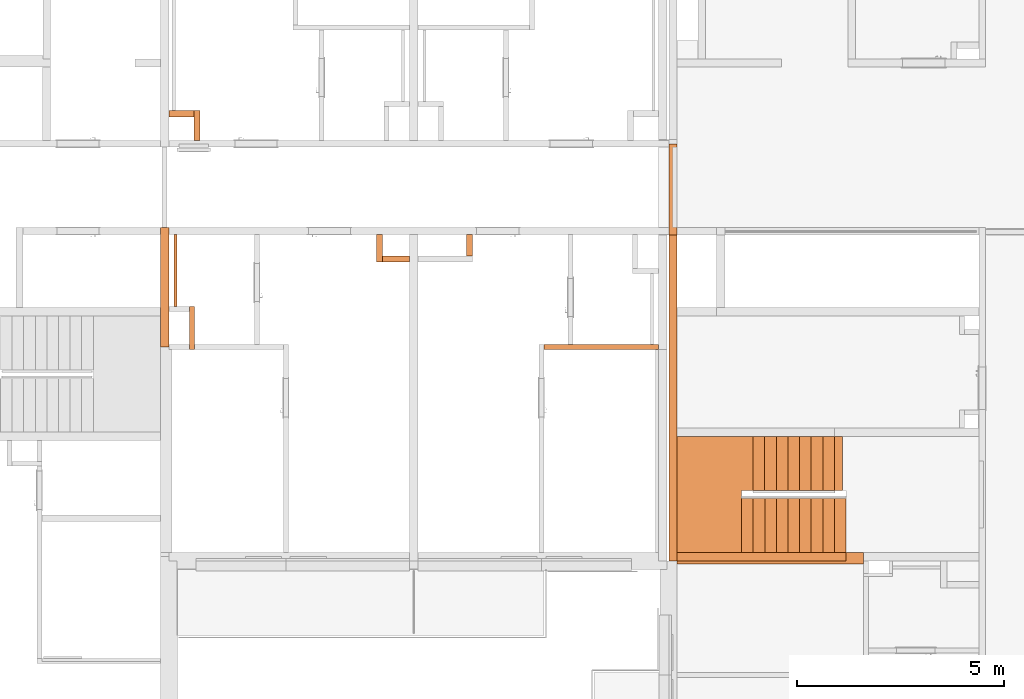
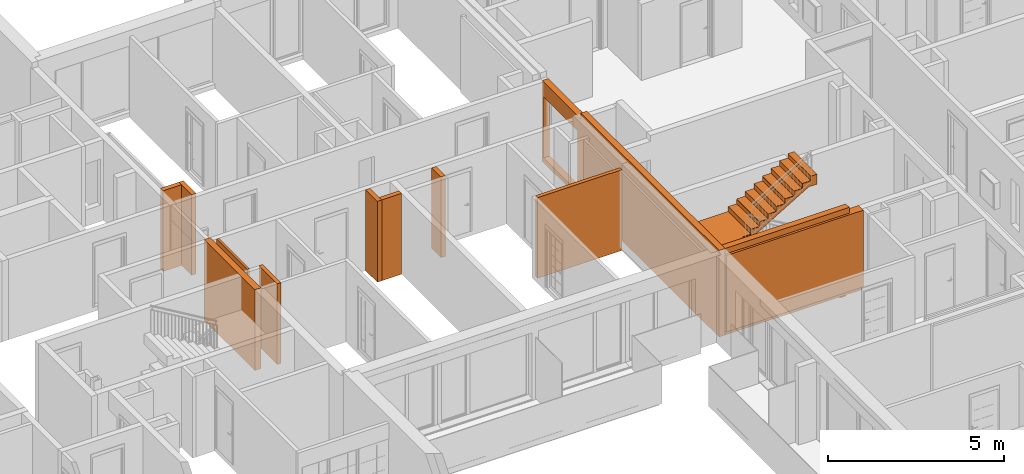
# One storey, part 56 of 64: 12 proxies, 1 opening.
"""IFC2X3 building model written with IfcOpenShell, lengths in millimetres."""

from ifc_helpers import new_model, entity, si_unit, converted_unit, derived_unit, money_unit, direction, frame, origin_with_axes, origin_2d_with_axis, place, context, subcontext, project, spatial, rectangle, extrude, faceted_brep, material, material_list, type_object, element, save


model = new_model("IFC2X3")

# Units and contexts
model_context = context("Model", 3, precision=0.01, world=origin_with_axes(), true_north=direction((0.34421633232, 0.938890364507)))
body_context = subcontext(model_context, "Body", "Model", "MODEL_VIEW")
ifc_project = project(units=[si_unit("LENGTHUNIT", "METRE", prefix="MILLI"), si_unit("AREAUNIT", "SQUARE_METRE"), si_unit("VOLUMEUNIT", "CUBIC_METRE"), converted_unit("PLANEANGLEUNIT", "DEGREE", entity("IfcPlaneAngleMeasure", 0.0174532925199), si_unit("PLANEANGLEUNIT", "RADIAN"), dimensions=[0, 0, 0, 0, 0, 0, 0]), si_unit("SOLIDANGLEUNIT", "STERADIAN"), money_unit("USD"), converted_unit("TIMEUNIT", "Year", entity("IfcTimeMeasure", 31556926.0), si_unit("TIMEUNIT", "SECOND"), dimensions=[0, 0, 1, 0, 0, 0, 0]), si_unit("MASSUNIT", "GRAM", prefix="KILO"), si_unit("THERMODYNAMICTEMPERATUREUNIT", "DEGREE_CELSIUS"), si_unit("LUMINOUSINTENSITYUNIT", "LUMEN"), si_unit("ENERGYUNIT", "JOULE", prefix="MEGA"), derived_unit("THERMALCONDUCTANCEUNIT", [(si_unit("POWERUNIT", "WATT"), 1), (si_unit("LENGTHUNIT", "METRE"), -1), (si_unit("THERMODYNAMICTEMPERATUREUNIT", "KELVIN"), -1)]), derived_unit("SPECIFICHEATCAPACITYUNIT", [(si_unit("ENERGYUNIT", "JOULE"), 1), (si_unit("MASSUNIT", "GRAM", prefix="KILO"), -1), (si_unit("THERMODYNAMICTEMPERATUREUNIT", "KELVIN"), -1)]), derived_unit("MASSDENSITYUNIT", [(si_unit("MASSUNIT", "GRAM", prefix="KILO"), 1), (si_unit("VOLUMEUNIT", "CUBIC_METRE"), -1)])], contexts=[model_context])

# Site, building, storey
site_placement = place(None, origin_with_axes())
site = spatial("IfcSite", under=ifc_project, at=site_placement, Name="USTRONIE MORSKIE", CompositionType="ELEMENT")
building_placement = place(site_placement, origin_with_axes())
building = spatial("IfcBuilding", under=site, at=building_placement, Name="Budynek", CompositionType="ELEMENT")
storey_placement = place(building_placement, frame((0.0, 0.0, 7000.0), z_axis=(0.0, 0.0, 1.0), x_axis=(1.0, 0.0, 0.0)))
storey = spatial("IfcBuildingStorey", under=building, at=storey_placement, Name="PIĘTRO 2", CompositionType="ELEMENT", Elevation=7000.0)

# Proxies
ifc_material_1 = material(Name="Bloczki silikatowe")
building_element_proxy_type_1 = type_object("IfcBuildingElementProxyType", Name="Bloczki silikatowe 120", PredefinedType="NOTDEFINED")
proxy_1_placement = place(storey_placement, frame((396917.927263, 731951.199132, -160.0), z_axis=(0.0, 0.0, 1.0), x_axis=(-3.11484010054e-05, 0.999999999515, 0.0)))
element("IfcBuildingElementProxy", 1, at=proxy_1_placement, inside=storey, type_object=building_element_proxy_type_1, material=ifc_material_1, Name="SW-04", context=body_context, shape_type="Brep", body=[
    faceted_brep([(979.997380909, 0.0, 0.0), (979.989905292, -120.0, 0.0), (-60.0037378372, -120.0, 0.0), (-60.000000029, 0.0, 0.0), (979.997380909, 0.0, 2800.0), (979.989905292, -120.0, 2800.0), (-60.0037378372, -120.0, 2800.0), (-60.000000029, 0.0, 2800.0)], [[[0, 1, 2, 3]], [[1, 0, 4, 5]], [[1, 5, 6, 2]], [[7, 3, 2, 6]], [[4, 0, 3, 7]], [[5, 4, 7, 6]]]),
])
proxy_2_placement = place(storey_placement, frame((408317.920919, 731951.199132, -160.0), z_axis=(0.0, 0.0, 1.0), x_axis=(-1.0, 0.0, 0.0)))
element("IfcBuildingElementProxy", 2, at=proxy_2_placement, inside=storey, type_object=building_element_proxy_type_1, material=ifc_material_1, Name="SW-04", context=body_context, shape_type="Brep", body=[
    faceted_brep([(2860.01935038, 59.9999999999, 0.0), (2860.01935038, -59.9999999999, 0.0), (99.9999999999, -59.9999999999, 0.0), (99.9999999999, 59.9999999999, 0.0), (2860.01935038, 59.9999999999, 2800.0), (2860.01935038, -59.9999999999, 2800.0), (99.9999999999, -59.9999999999, 2800.0), (99.9999999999, 59.9999999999, 2800.0)], [[[0, 1, 2, 3]], [[1, 0, 4, 5]], [[1, 5, 6, 2]], [[7, 3, 2, 6]], [[4, 0, 3, 7]], [[5, 4, 7, 6]]]),
])
ifc_material_2 = material(Name="Beton konstrukcyjny B25")
ifc_material_3 = material(Name="Płytki podłogowe")
ifc_material_list_1 = material_list([ifc_material_2, ifc_material_2, ifc_material_2, ifc_material_3, ifc_material_3, ifc_material_3, ifc_material_3, ifc_material_3, ifc_material_3, ifc_material_3, ifc_material_3, ifc_material_3, ifc_material_3, ifc_material_3, ifc_material_3, ifc_material_3, ifc_material_3, ifc_material_3, ifc_material_3, ifc_material_3])
building_element_proxy_type_2 = type_object("IfcBuildingElementProxyType", Name="Typ schodów", PredefinedType="NOTDEFINED")
proxy_3_placement = place(storey_placement, frame((412739.660049, 727001.198905, 0.0), z_axis=(0.0, 0.0, 1.0), x_axis=(-1.0, 0.0, 0.0)))
element("IfcBuildingElementProxy", 3, at=proxy_3_placement, inside=storey, type_object=building_element_proxy_type_2, material=ifc_material_list_1, Name="SCH2", context=body_context, shape_type="Brep", body=[
    faceted_brep([(2520.00002021, -1299.99999404, 1485.0), (2520.00002021, 0.0, 1485.0), (2240.0, 0.0, 1485.0), (2240.0, -1300.0, 1485.0), (2520.00002021, -1299.99999404, 1491.66666667), (2520.00002021, 0.0, 1491.66666667), (2520.00002021, 0.0, 1345.35030449), (2426.66666667, 0.0, 1289.7947369), (2333.33333333, 0.0, 1234.23918135), (2240.0, 0.0, 1178.68362579), (2146.66666667, 0.0, 1123.12807024), (2053.33333333, 0.0, 1067.57251468), (1960.0, 0.0, 1012.01695913), (1866.66666667, 0.0, 956.46140357), (1773.33333333, 0.0, 900.905848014), (1680.0, 0.0, 845.350292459), (1586.66666667, 0.0, 789.794736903), (1493.33333333, 0.0, 734.239181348), (1400.0, 0.0, 678.683625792), (1306.66666667, 0.0, 623.128070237), (1213.33333333, 0.0, 567.572514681), (1120.0, 0.0, 512.016959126), (1026.66666667, 0.0, 456.46140357), (933.333333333, 0.0, 400.905848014), (840.0, 0.0, 345.350292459), (746.666666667, 0.0, 289.794736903), (653.333333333, 0.0, 234.239181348), (560.0, 0.0, 178.683625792), (466.666666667, 0.0, 123.128070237), (373.333333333, 0.0, 67.5725146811), (280.0, 0.0, 12.0169591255), (200.0, 0.0, -35.6020884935), (200.0, 0.0, -360.0), (0.0, 0.0, -360.0), (0.0, 0.0, -154.649707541), (0.0, 0.0, 151.666666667), (280.0, 0.0, 151.666666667), (280.0, 0.0, 318.333333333), (560.0, 0.0, 318.333333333), (560.0, 0.0, 485.0), (840.0, 0.0, 485.0), (840.0, 0.0, 651.666666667), (1120.0, 0.0, 651.666666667), (1120.0, 0.0, 818.333333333), (1400.0, 0.0, 818.333333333), (1400.0, 0.0, 985.0), (1680.0, 0.0, 985.0), (1680.0, 0.0, 1151.66666667), (1960.0, 0.0, 1151.66666667), (1960.0, 0.0, 1318.33333333), (2240.0, 0.0, 1318.33333333), (2765.81150867, 0.0, 1491.66666667), (2240.0, -1300.0, 1318.33333333), (1960.0, -1300.0, 1318.33333333), (1960.0, -1300.0, 1151.66666667), (1680.0, -1300.0, 1151.66666667), (1680.0, -1300.0, 985.0), (1400.0, -1300.0, 985.0), (1400.0, -1300.0, 818.333333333), (1120.0, -1300.0, 818.333333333), (1120.0, -1300.0, 651.666666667), (840.0, -1300.0, 651.666666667), (840.0, -1300.0, 485.0), (560.0, -1300.0, 485.0), (560.0, -1300.0, 318.333333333), (280.0, -1300.0, 318.333333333), (280.0, -1300.0, 151.666666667), (0.0, -1300.0, 151.666666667), (0.0, -1300.0, -154.649707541), (0.0, -1300.0, -360.0), (200.0, -1300.0, -360.0), (200.0, -1300.0, -35.6020884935), (280.0, -1300.0, 12.0169591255), (373.333333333, -1300.0, 67.5725146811), (466.666666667, -1300.0, 123.128070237), (560.0, -1300.0, 178.683625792), (653.333333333, -1300.0, 234.239181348), (746.666666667, -1300.0, 289.794736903), (840.0, -1300.0, 345.350292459), (933.333333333, -1300.0, 400.905848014), (1026.66666667, -1300.0, 456.46140357), (1120.0, -1300.0, 512.016959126), (1213.33333333, -1300.0, 567.572514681), (1306.66666667, -1300.0, 623.128070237), (1400.0, -1300.0, 678.683625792), (1493.33333333, -1300.0, 734.239181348), (1586.66666667, -1300.0, 789.794736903), (1680.0, -1300.0, 845.350292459), (1773.33333333, -1300.0, 900.905848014), (1866.66666667, -1300.0, 956.46140357), (1960.0, -1300.0, 1012.01695913), (2053.33333333, -1300.0, 1067.57251468), (2146.66666667, -1300.0, 1123.12807024), (2240.0, -1300.0, 1178.68362579), (2333.33333333, -1300.0, 1234.23918135), (2426.66666667, -1300.0, 1289.7947369), (2520.00002021, -1299.99999404, 1345.35030449), (2765.81150867, -1299.99999404, 1491.66666667)], [[[0, 1, 2, 3]], [[1, 0, 4, 5]], [[6, 7, 8, 9, 10, 11, 12, 13, 14, 15, 16, 17, 18, 19, 20, 21, 22, 23, 24, 25, 26, 27, 28, 29, 30, 31, 32, 33, 34, 35, 36, 37, 38, 39, 40, 41, 42, 43, 44, 45, 46, 47, 48, 49, 50, 2, 1, 5, 51]], [[52, 3, 2, 50]], [[0, 3, 52, 53, 54, 55, 56, 57, 58, 59, 60, 61, 62, 63, 64, 65, 66, 67, 68, 69, 70, 71, 72, 73, 74, 75, 76, 77, 78, 79, 80, 81, 82, 83, 84, 85, 86, 87, 88, 89, 90, 91, 92, 93, 94, 95, 96, 97, 4]], [[51, 5, 4, 97]], [[96, 95, 7, 6, 51, 97]], [[95, 94, 8, 7]], [[94, 93, 9, 8]], [[93, 92, 10, 9]], [[92, 91, 11, 10]], [[91, 90, 12, 11]], [[90, 89, 13, 12]], [[89, 88, 14, 13]], [[88, 87, 15, 14]], [[87, 86, 16, 15]], [[86, 85, 17, 16]], [[85, 84, 18, 17]], [[84, 83, 19, 18]], [[83, 82, 20, 19]], [[82, 81, 21, 20]], [[81, 80, 22, 21]], [[80, 79, 23, 22]], [[79, 78, 24, 23]], [[78, 77, 25, 24]], [[77, 76, 26, 25]], [[76, 75, 27, 26]], [[75, 74, 28, 27]], [[74, 73, 29, 28]], [[73, 72, 30, 29]], [[72, 71, 31, 30]], [[32, 31, 71, 70]], [[32, 70, 69, 33]], [[69, 68, 34, 33]], [[35, 34, 68, 67]], [[36, 35, 67, 66]], [[66, 65, 37, 36]], [[38, 37, 65, 64]], [[64, 63, 39, 38]], [[40, 39, 63, 62]], [[62, 61, 41, 40]], [[42, 41, 61, 60]], [[60, 59, 43, 42]], [[44, 43, 59, 58]], [[58, 57, 45, 44]], [[46, 45, 57, 56]], [[56, 55, 47, 46]], [[48, 47, 55, 54]], [[54, 53, 49, 48]], [[50, 49, 53, 52]]]),
    faceted_brep([(2275.92762177, -1500.00000596, 1491.66666667), (2275.92762177, -1500.00000596, 1651.66666667), (2521.73913043, -1500.00000596, 1651.66666667), (2521.73913043, -1500.00000596, 1491.66666667), (2275.92762177, -2800.0, 1651.66666667), (2275.92762177, -2800.0, 1491.66666667), (4071.73911851, -2800.0, 1651.66666667), (4071.73911851, 0.0, 1651.66666667), (2520.00002021, 0.0, 1651.66666667), (2520.00002021, -1299.99999404, 1651.66666667), (2521.73913043, -1299.99999404, 1651.66666667), (2521.73913043, -1299.99999404, 1491.66666667), (2520.00002021, -1299.99999404, 1491.66666667), (2520.00002021, 0.0, 1491.66666667), (4071.73911851, 0.0, 1491.66666667), (4071.73911851, -2800.0, 1491.66666667)], [[[0, 1, 2, 3]], [[4, 1, 0, 5]], [[1, 4, 6, 7, 8, 9, 10, 2]], [[10, 11, 3, 2]], [[5, 0, 3, 11, 12, 13, 14, 15]], [[4, 5, 15, 6]], [[6, 15, 14, 7]], [[7, 14, 13, 8]], [[8, 13, 12, 9]], [[9, 12, 11, 10]]]),
    faceted_brep([(375.072463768, -2800.0, 2623.12807024), (346.727621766, -2800.0, 2640.0), (346.727621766, -1500.0, 2640.0), (375.072463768, -1500.0, 2623.12807024), (81.7391304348, -2800.0, 2640.0), (468.405797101, -2800.0, 2567.57251468), (561.739130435, -2800.0, 2512.01695913), (655.072463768, -2800.0, 2456.46140357), (748.405797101, -2800.0, 2400.90584801), (841.739130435, -2800.0, 2345.35029246), (935.072463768, -2800.0, 2289.7947369), (1028.4057971, -2800.0, 2234.23918135), (1121.73913043, -2800.0, 2178.68362579), (1215.07246377, -2800.0, 2123.12807024), (1308.4057971, -2800.0, 2067.57251468), (1401.73913043, -2800.0, 2012.01695913), (1495.07246377, -2800.0, 1956.46140357), (1588.4057971, -2800.0, 1900.90584801), (1681.73913043, -2800.0, 1845.35029246), (1775.07246377, -2800.0, 1789.7947369), (1868.4057971, -2800.0, 1734.23918135), (1961.73913043, -2800.0, 1678.68362579), (2055.07246377, -2800.0, 1623.12807024), (2148.4057971, -2800.0, 1567.57251468), (2241.73913043, -2800.0, 1512.01695913), (2275.92762177, -2800.0, 1491.66666667), (2275.92762177, -2800.0, 1651.66666667), (2241.73913043, -2800.0, 1651.66666667), (2241.73913043, -2800.0, 1818.33333333), (1961.73913043, -2800.0, 1818.33333333), (1961.73913043, -2800.0, 1985.0), (1681.73913043, -2800.0, 1985.0), (1681.73913043, -2800.0, 2151.66666667), (1401.73913043, -2800.0, 2151.66666667), (1401.73913043, -2800.0, 2318.33333333), (1121.73913043, -2800.0, 2318.33333333), (1121.73913043, -2800.0, 2485.0), (841.739130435, -2800.0, 2485.0), (841.739130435, -2800.0, 2651.66666667), (561.739130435, -2800.0, 2651.66666667), (561.739130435, -2800.0, 2818.33333333), (281.739130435, -2800.0, 2818.33333333), (281.739130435, -2800.0, 2985.0), (81.7391304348, -2800.0, 2985.0), (81.7391304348, -1500.0, 2640.0), (81.7391304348, -1500.0, 2985.0), (281.739130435, -1500.0, 2985.0), (281.739130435, -1500.0, 2818.33333333), (561.739130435, -1500.0, 2818.33333333), (561.739130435, -1500.0, 2651.66666667), (841.739130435, -1500.0, 2651.66666667), (841.739130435, -1500.0, 2485.0), (1121.73913043, -1500.0, 2485.0), (1121.73913043, -1500.0, 2318.33333333), (1401.73913043, -1500.0, 2318.33333333), (1401.73913043, -1500.0, 2151.66666667), (1681.73913043, -1500.0, 2151.66666667), (1681.73913043, -1500.0, 1985.0), (1961.73913043, -1500.0, 1985.0), (1961.73913043, -1500.0, 1818.33333333), (2241.73913043, -1500.0, 1818.33333333), (2241.73913043, -1500.00000596, 1651.66666667), (2275.92762177, -1500.00000596, 1651.66666667), (2275.92762177, -1500.00000596, 1491.66666667), (2241.73913043, -1500.00000596, 1512.01695913), (2148.4057971, -1500.0, 1567.57251468), (2055.07246377, -1500.0, 1623.12807024), (1961.73913043, -1500.0, 1678.68362579), (1868.4057971, -1500.0, 1734.23918135), (1775.07246377, -1500.0, 1789.7947369), (1681.73913043, -1500.0, 1845.35029246), (1588.4057971, -1500.0, 1900.90584801), (1495.07246377, -1500.0, 1956.46140357), (1401.73913043, -1500.0, 2012.01695913), (1308.4057971, -1500.0, 2067.57251468), (1215.07246377, -1500.0, 2123.12807024), (1121.73913043, -1500.0, 2178.68362579), (1028.4057971, -1500.0, 2234.23918135), (935.072463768, -1500.0, 2289.7947369), (841.739130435, -1500.0, 2345.35029246), (748.405797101, -1500.0, 2400.90584801), (655.072463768, -1500.0, 2456.46140357), (561.739130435, -1500.0, 2512.01695913), (468.405797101, -1500.0, 2567.57251468)], [[[0, 1, 2, 3]], [[4, 1, 0, 5, 6, 7, 8, 9, 10, 11, 12, 13, 14, 15, 16, 17, 18, 19, 20, 21, 22, 23, 24, 25, 26, 27, 28, 29, 30, 31, 32, 33, 34, 35, 36, 37, 38, 39, 40, 41, 42, 43]], [[44, 2, 1, 4]], [[3, 2, 44, 45, 46, 47, 48, 49, 50, 51, 52, 53, 54, 55, 56, 57, 58, 59, 60, 61, 62, 63, 64, 65, 66, 67, 68, 69, 70, 71, 72, 73, 74, 75, 76, 77, 78, 79, 80, 81, 82, 83]], [[83, 5, 0, 3]], [[82, 6, 5, 83]], [[81, 7, 6, 82]], [[80, 8, 7, 81]], [[79, 9, 8, 80]], [[78, 10, 9, 79]], [[77, 11, 10, 78]], [[76, 12, 11, 77]], [[75, 13, 12, 76]], [[74, 14, 13, 75]], [[73, 15, 14, 74]], [[72, 16, 15, 73]], [[71, 17, 16, 72]], [[70, 18, 17, 71]], [[69, 19, 18, 70]], [[68, 20, 19, 69]], [[67, 21, 20, 68]], [[66, 22, 21, 67]], [[65, 23, 22, 66]], [[23, 65, 64, 24]], [[63, 25, 24, 64]], [[26, 25, 63, 62]], [[26, 62, 61, 27]], [[60, 28, 27, 61]], [[59, 29, 28, 60]], [[29, 59, 58, 30]], [[57, 31, 30, 58]], [[31, 57, 56, 32]], [[55, 33, 32, 56]], [[33, 55, 54, 34]], [[53, 35, 34, 54]], [[35, 53, 52, 36]], [[51, 37, 36, 52]], [[37, 51, 50, 38]], [[49, 39, 38, 50]], [[39, 49, 48, 40]], [[48, 47, 41, 40]], [[42, 41, 47, 46]], [[42, 46, 45, 43]], [[4, 43, 45, 44]]]),
    faceted_brep([(0.0, 0.0, 156.666666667), (0.0, -1300.0, 156.666666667), (0.0, -1300.0, 166.666666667), (0.0, 0.0, 166.666666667), (280.0, 0.0, 156.666666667), (280.0, -1300.0, 156.666666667), (280.0, -1300.0, 166.666666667), (280.0, 0.0, 166.666666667)], [[[0, 1, 2, 3]], [[0, 4, 5, 1]], [[1, 5, 6, 2]], [[3, 2, 6, 7]], [[4, 0, 3, 7]], [[5, 4, 7, 6]]]),
    faceted_brep([(280.0, 0.0, 323.333333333), (280.0, -1300.0, 323.333333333), (280.0, -1300.0, 333.333333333), (280.0, 0.0, 333.333333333), (560.0, 0.0, 323.333333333), (560.0, -1300.0, 323.333333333), (560.0, -1300.0, 333.333333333), (560.0, 0.0, 333.333333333)], [[[0, 1, 2, 3]], [[0, 4, 5, 1]], [[1, 5, 6, 2]], [[3, 2, 6, 7]], [[4, 0, 3, 7]], [[5, 4, 7, 6]]]),
    faceted_brep([(560.0, 0.0, 490.0), (560.0, -1300.0, 490.0), (560.0, -1300.0, 500.0), (560.0, 0.0, 500.0), (840.0, 0.0, 490.0), (840.0, -1300.0, 490.0), (840.0, -1300.0, 500.0), (840.0, 0.0, 500.0)], [[[0, 1, 2, 3]], [[0, 4, 5, 1]], [[1, 5, 6, 2]], [[3, 2, 6, 7]], [[4, 0, 3, 7]], [[5, 4, 7, 6]]]),
    faceted_brep([(840.0, 0.0, 656.666666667), (840.0, -1300.0, 656.666666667), (840.0, -1300.0, 666.666666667), (840.0, 0.0, 666.666666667), (1120.0, 0.0, 656.666666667), (1120.0, -1300.0, 656.666666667), (1120.0, -1300.0, 666.666666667), (1120.0, 0.0, 666.666666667)], [[[0, 1, 2, 3]], [[0, 4, 5, 1]], [[1, 5, 6, 2]], [[3, 2, 6, 7]], [[4, 0, 3, 7]], [[5, 4, 7, 6]]]),
    faceted_brep([(1120.0, 0.0, 823.333333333), (1120.0, -1300.0, 823.333333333), (1120.0, -1300.0, 833.333333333), (1120.0, 0.0, 833.333333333), (1400.0, 0.0, 823.333333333), (1400.0, -1300.0, 823.333333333), (1400.0, -1300.0, 833.333333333), (1400.0, 0.0, 833.333333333)], [[[0, 1, 2, 3]], [[0, 4, 5, 1]], [[1, 5, 6, 2]], [[3, 2, 6, 7]], [[4, 0, 3, 7]], [[5, 4, 7, 6]]]),
    faceted_brep([(1400.0, 0.0, 990.0), (1400.0, -1300.0, 990.0), (1400.0, -1300.0, 1000.0), (1400.0, 0.0, 1000.0), (1680.0, 0.0, 990.0), (1680.0, -1300.0, 990.0), (1680.0, -1300.0, 1000.0), (1680.0, 0.0, 1000.0)], [[[0, 1, 2, 3]], [[0, 4, 5, 1]], [[1, 5, 6, 2]], [[3, 2, 6, 7]], [[4, 0, 3, 7]], [[5, 4, 7, 6]]]),
    faceted_brep([(1680.0, 0.0, 1156.66666667), (1680.0, -1300.0, 1156.66666667), (1680.0, -1300.0, 1166.66666667), (1680.0, 0.0, 1166.66666667), (1960.0, 0.0, 1156.66666667), (1960.0, -1300.0, 1156.66666667), (1960.0, -1300.0, 1166.66666667), (1960.0, 0.0, 1166.66666667)], [[[0, 1, 2, 3]], [[0, 4, 5, 1]], [[1, 5, 6, 2]], [[3, 2, 6, 7]], [[4, 0, 3, 7]], [[5, 4, 7, 6]]]),
    faceted_brep([(1960.0, 0.0, 1323.33333333), (1960.0, -1300.0, 1323.33333333), (1960.0, -1300.0, 1333.33333333), (1960.0, 0.0, 1333.33333333), (2240.0, 0.0, 1323.33333333), (2240.0, -1300.0, 1323.33333333), (2240.0, -1300.0, 1333.33333333), (2240.0, 0.0, 1333.33333333)], [[[0, 1, 2, 3]], [[0, 4, 5, 1]], [[1, 5, 6, 2]], [[3, 2, 6, 7]], [[4, 0, 3, 7]], [[5, 4, 7, 6]]]),
    faceted_brep([(2240.0, 0.0, 1490.0), (2240.0, -1300.0, 1490.0), (2240.0, -1300.0, 1500.0), (2240.0, 0.0, 1500.0), (2520.0, 0.0, 1490.0), (2520.0, -1300.0, 1490.0), (2520.0, -1300.0, 1500.0), (2520.0, 0.0, 1500.0)], [[[0, 1, 2, 3]], [[0, 4, 5, 1]], [[1, 5, 6, 2]], [[3, 2, 6, 7]], [[4, 0, 3, 7]], [[5, 4, 7, 6]]]),
    faceted_brep([(2521.73913043, -1500.00000596, 1656.66666667), (2241.73913043, -1500.00000596, 1656.66666667), (2241.73913043, -1500.00000596, 1666.66666667), (2521.73913043, -1500.00000596, 1666.66666667), (2521.73913043, -1299.99999404, 1656.66666667), (2520.00002021, -1299.99999404, 1656.66666667), (2520.00002021, 0.0, 1656.66666667), (2521.73913043, 0.0, 1656.66666667), (4071.73911851, 0.0, 1656.66666667), (4071.73911851, -2800.0, 1656.66666667), (2521.73913043, -2800.0, 1656.66666667), (2241.73913043, -2800.0, 1656.66666667), (2241.73913043, -2800.0, 1666.66666667), (2521.73913043, -2800.0, 1666.66666667), (4071.73911851, -2800.0, 1666.66666667), (4071.73911851, 0.0, 1666.66666667), (2521.73913043, 0.0, 1666.66666667), (2520.00002021, 0.0, 1666.66666667), (2520.00002021, -1299.99999404, 1666.66666667), (2521.73913043, -1299.99999404, 1666.66666667)], [[[0, 1, 2, 3]], [[0, 4, 5, 6, 7, 8, 9, 10, 11, 1]], [[1, 11, 12, 2]], [[3, 2, 12, 13, 14, 15, 16, 17, 18, 19]], [[4, 0, 3, 19]], [[5, 4, 19, 18]], [[6, 5, 18, 17]], [[7, 6, 17, 16]], [[8, 7, 16, 15]], [[9, 8, 15, 14]], [[10, 9, 14, 13]], [[11, 10, 13, 12]]]),
    faceted_brep([(2241.73913043, -2800.0, 1823.33333333), (2241.73913043, -1500.0, 1823.33333333), (2241.73913043, -1500.0, 1833.33333333), (2241.73913043, -2800.0, 1833.33333333), (1961.73913043, -2800.0, 1823.33333333), (1961.73913043, -1500.0, 1823.33333333), (1961.73913043, -1500.0, 1833.33333333), (1961.73913043, -2800.0, 1833.33333333)], [[[0, 1, 2, 3]], [[0, 4, 5, 1]], [[1, 5, 6, 2]], [[3, 2, 6, 7]], [[4, 0, 3, 7]], [[5, 4, 7, 6]]]),
    faceted_brep([(1961.73913043, -2800.0, 1990.0), (1961.73913043, -1500.0, 1990.0), (1961.73913043, -1500.0, 2000.0), (1961.73913043, -2800.0, 2000.0), (1681.73913043, -2800.0, 1990.0), (1681.73913043, -1500.0, 1990.0), (1681.73913043, -1500.0, 2000.0), (1681.73913043, -2800.0, 2000.0)], [[[0, 1, 2, 3]], [[0, 4, 5, 1]], [[1, 5, 6, 2]], [[3, 2, 6, 7]], [[4, 0, 3, 7]], [[5, 4, 7, 6]]]),
    faceted_brep([(1681.73913043, -2800.0, 2156.66666667), (1681.73913043, -1500.0, 2156.66666667), (1681.73913043, -1500.0, 2166.66666667), (1681.73913043, -2800.0, 2166.66666667), (1401.73913043, -2800.0, 2156.66666667), (1401.73913043, -1500.0, 2156.66666667), (1401.73913043, -1500.0, 2166.66666667), (1401.73913043, -2800.0, 2166.66666667)], [[[0, 1, 2, 3]], [[0, 4, 5, 1]], [[1, 5, 6, 2]], [[3, 2, 6, 7]], [[4, 0, 3, 7]], [[5, 4, 7, 6]]]),
    faceted_brep([(1401.73913043, -2800.0, 2323.33333333), (1401.73913043, -1500.0, 2323.33333333), (1401.73913043, -1500.0, 2333.33333333), (1401.73913043, -2800.0, 2333.33333333), (1121.73913043, -2800.0, 2323.33333333), (1121.73913043, -1500.0, 2323.33333333), (1121.73913043, -1500.0, 2333.33333333), (1121.73913043, -2800.0, 2333.33333333)], [[[0, 1, 2, 3]], [[0, 4, 5, 1]], [[1, 5, 6, 2]], [[3, 2, 6, 7]], [[4, 0, 3, 7]], [[5, 4, 7, 6]]]),
    faceted_brep([(1121.73913043, -2800.0, 2490.0), (1121.73913043, -1500.0, 2490.0), (1121.73913043, -1500.0, 2500.0), (1121.73913043, -2800.0, 2500.0), (841.739130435, -2800.0, 2490.0), (841.739130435, -1500.0, 2490.0), (841.739130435, -1500.0, 2500.0), (841.739130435, -2800.0, 2500.0)], [[[0, 1, 2, 3]], [[0, 4, 5, 1]], [[1, 5, 6, 2]], [[3, 2, 6, 7]], [[4, 0, 3, 7]], [[5, 4, 7, 6]]]),
    faceted_brep([(841.739130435, -2800.0, 2656.66666667), (841.739130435, -1500.0, 2656.66666667), (841.739130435, -1500.0, 2666.66666667), (841.739130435, -2800.0, 2666.66666667), (561.739130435, -2800.0, 2656.66666667), (561.739130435, -1500.0, 2656.66666667), (561.739130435, -1500.0, 2666.66666667), (561.739130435, -2800.0, 2666.66666667)], [[[0, 1, 2, 3]], [[0, 4, 5, 1]], [[1, 5, 6, 2]], [[3, 2, 6, 7]], [[4, 0, 3, 7]], [[5, 4, 7, 6]]]),
    faceted_brep([(561.739130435, -2800.0, 2823.33333333), (561.739130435, -1500.0, 2823.33333333), (561.739130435, -1500.0, 2833.33333333), (561.739130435, -2800.0, 2833.33333333), (281.739130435, -2800.0, 2823.33333333), (281.739130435, -1500.0, 2823.33333333), (281.739130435, -1500.0, 2833.33333333), (281.739130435, -2800.0, 2833.33333333)], [[[0, 1, 2, 3]], [[0, 4, 5, 1]], [[1, 5, 6, 2]], [[3, 2, 6, 7]], [[4, 0, 3, 7]], [[5, 4, 7, 6]]]),
])
ifc_material_4 = material(Name="-Pustka powietrzna")
ifc_material_5 = material(Name="Płyta GK")
ifc_material_list_2 = material_list([ifc_material_4, ifc_material_5, ifc_material_5])
building_element_proxy_type_3 = type_object("IfcBuildingElementProxyType", Name="330-SD GK 2-warstwy 75", PredefinedType="NOTDEFINED")
proxy_4_placement = place(storey_placement, frame((396562.908566, 732811.206636, -160.0), z_axis=(0.0, 0.0, 1.0), x_axis=(0.0, 1.0, 0.0)))
element("IfcBuildingElementProxy", 4, at=proxy_4_placement, inside=storey, type_object=building_element_proxy_type_3, material=ifc_material_list_2, Name="Ściana-009", context=body_context, shape_type="Brep", body=[
    faceted_brep([(120.0001558, -25.0, 160.0), (1859.99610152, -25.0, 160.0), (1859.99610152, -25.0, 2800.0), (120.0001558, -25.0, 2800.0), (1859.99611702, 25.0, 160.0), (120.00171322, 25.0, 160.0), (1859.99611702, 25.0, 2800.0), (120.00171322, 25.0, 2800.0)], [[[0, 1, 2, 3]], [[4, 1, 0, 5]], [[1, 4, 6, 2]], [[2, 6, 7, 3]], [[5, 0, 3, 7]], [[4, 5, 7, 6]]]),
    faceted_brep([(119.999766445, -37.5, 145.0), (1859.99609764, -37.5, 145.0), (1859.99609764, -37.5, 2800.0), (119.999766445, -37.5, 2800.0), (1859.99610152, -25.0, 145.0), (120.0001558, -25.0, 145.0), (1859.99610152, -25.0, 2800.0), (120.0001558, -25.0, 2800.0)], [[[0, 1, 2, 3]], [[4, 1, 0, 5]], [[1, 4, 6, 2]], [[2, 6, 7, 3]], [[5, 0, 3, 7]], [[4, 5, 7, 6]]]),
    faceted_brep([(119.99937709, -50.0, 145.0), (1859.99609377, -50.0, 145.0), (1859.99609377, -50.0, 2800.0), (119.99937709, -50.0, 2800.0), (1859.99609764, -37.5, 145.0), (119.999766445, -37.5, 145.0), (1859.99609764, -37.5, 2800.0), (119.999766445, -37.5, 2800.0)], [[[0, 1, 2, 3]], [[4, 1, 0, 5]], [[1, 4, 6, 2]], [[2, 6, 7, 3]], [[5, 0, 3, 7]], [[4, 5, 7, 6]]]),
])
building_element_proxy_type_4 = type_object("IfcBuildingElementProxyType", Name="Bloczki silikatowe 150", PredefinedType="NOTDEFINED")
proxy_5_placement = place(storey_placement, frame((397017.924131, 736851.199036, -160.0), z_axis=(0.0, 0.0, 1.0), x_axis=(-3.11484011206e-05, 0.999999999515, 0.0)))
element("IfcBuildingElementProxy", 5, at=proxy_5_placement, inside=storey, type_object=building_element_proxy_type_4, material=ifc_material_1, Name="SW-03", context=body_context, shape_type="Brep", body=[
    faceted_brep([(800.003252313, 0.0, 0.0), (799.998580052, -150.0, 0.0), (79.9953277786, -150.0, 0.0), (80.0000000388, 0.0, 0.0), (800.003252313, 0.0, 2800.0), (799.998580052, -150.0, 2800.0), (79.9953277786, -150.0, 2800.0), (80.0000000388, 0.0, 2800.0)], [[[0, 1, 2, 3]], [[1, 0, 4, 5]], [[1, 5, 6, 2]], [[7, 3, 2, 6]], [[4, 0, 3, 7]], [[5, 4, 7, 6]]]),
])
proxy_6_placement = place(storey_placement, frame((401567.772717, 734151.201884, -160.0), z_axis=(0.0, 0.0, 1.0), x_axis=(1.0, 0.0, 0.0)))
element("IfcBuildingElementProxy", 6, at=proxy_6_placement, inside=storey, type_object=building_element_proxy_type_4, material=ifc_material_1, Name="SW-03", context=body_context, shape_type="Brep", body=[
    faceted_brep([(650.148201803, 0.0, 0.0), (650.148201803, -150.0, 0.0), (0.0, -150.0, 0.0), (0.0, 0.0, 0.0), (650.148201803, 0.0, 2800.0), (650.148201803, -150.0, 2800.0), (0.0, -150.0, 2800.0), (0.0, 0.0, 2800.0)], [[[0, 1, 2, 3]], [[1, 0, 4, 5]], [[1, 5, 6, 2]], [[7, 3, 2, 6]], [[4, 0, 3, 7]], [[5, 4, 7, 6]]]),
])
proxy_7_placement = place(storey_placement, frame((401567.772717, 734751.201178, -160.0), z_axis=(0.0, 0.0, 1.0), x_axis=(0.0, -1.0, 0.0)))
element("IfcBuildingElementProxy", 7, at=proxy_7_placement, inside=storey, type_object=building_element_proxy_type_4, material=ifc_material_1, Name="SW-03", context=body_context, shape_type="Brep", body=[
    faceted_brep([(749.999293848, 0.0, 0.0), (749.999293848, -150.0, 0.0), (79.9999379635, -150.0, 0.0), (79.9999844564, 0.0, 0.0), (749.999293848, 0.0, 2800.0), (749.999293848, -150.0, 2800.0), (79.9999379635, -150.0, 2800.0), (79.9999844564, 0.0, 2800.0)], [[[0, 1, 2, 3]], [[1, 0, 4, 5]], [[1, 5, 6, 2]], [[7, 3, 2, 6]], [[4, 0, 3, 7]], [[5, 4, 7, 6]]]),
])
proxy_8_placement = place(storey_placement, frame((403587.872717, 734751.201178, -160.0), z_axis=(0.0, 0.0, 1.0), x_axis=(0.0, -1.0, 0.0)))
element("IfcBuildingElementProxy", 8, at=proxy_8_placement, inside=storey, type_object=building_element_proxy_type_4, material=ifc_material_1, Name="SW-03", context=body_context, shape_type="Brep", body=[
    faceted_brep([(599.999293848, 0.0, 2800.0), (599.999293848, 150.0, 2800.0), (80.0006570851, 150.0, 2800.0), (80.0006105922, 0.0, 2800.0), (599.999293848, 0.0, 0.0), (599.999293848, 150.0, 0.0), (80.0006570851, 150.0, 0.0), (80.0006105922, 0.0, 0.0)], [[[0, 1, 2, 3]], [[1, 0, 4, 5]], [[1, 5, 6, 2]], [[7, 3, 2, 6]], [[4, 0, 3, 7]], [[5, 4, 7, 6]]]),
])
proxy_9_placement = place(storey_placement, frame((397017.903884, 737501.202288, -160.0), z_axis=(0.0, 0.0, 1.0), x_axis=(-1.0, 0.0, 0.0)))
element("IfcBuildingElementProxy", 9, at=proxy_9_placement, inside=storey, type_object=building_element_proxy_type_4, material=ifc_material_1, Name="SW-03", context=body_context, shape_type="Brep", body=[
    faceted_brep([(599.991772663, 0.0, 0.0), (599.991589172, -150.0, 0.0), (0.00467226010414, -150.0, 0.0), (0.0, 0.0, 0.0), (599.991772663, 0.0, 2800.0), (599.991589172, -150.0, 2800.0), (0.00467226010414, -150.0, 2800.0), (0.0, 0.0, 2800.0)], [[[0, 1, 2, 3]], [[1, 0, 4, 5]], [[1, 5, 6, 2]], [[7, 3, 2, 6]], [[4, 0, 3, 7]], [[5, 4, 7, 6]]]),
])
building_element_proxy_type_5 = type_object("IfcBuildingElementProxyType", Name="Beton konstrukcyjny B25 200", PredefinedType="NOTDEFINED")
proxy_10_placement = place(storey_placement, frame((396317.920919, 731951.199132, -160.0), z_axis=(0.0, 0.0, 1.0), x_axis=(0.0, 1.0, 0.0)))
element("IfcBuildingElementProxy", 10, at=proxy_10_placement, inside=storey, type_object=building_element_proxy_type_5, material=ifc_material_2, Name="SW-01", context=body_context, shape_type="Brep", body=[
    faceted_brep([(2880.00371943, 100.0, 2800.0), (2800.00368844, 100.0, 2800.0), (2800.00368844, -100.0, 2800.0), (2880.00365744, -100.0, 2800.0), (0.0, 100.0, 0.0), (0.0, 100.0, 2800.0), (2880.00371943, 100.0, 0.0), (0.0, -100.0, 2800.0), (0.0, -100.0, 0.0), (2880.00365744, -100.0, 0.0)], [[[0, 1, 2, 3]], [[4, 5, 1, 0, 6]], [[5, 7, 2, 1]], [[3, 2, 7, 8, 9]], [[3, 9, 6, 0]], [[8, 7, 5, 4]], [[9, 8, 4, 6]]]),
])

# Proxy, opening
proxy_11_placement = place(storey_placement, frame((408567.920923, 726801.199036, -160.0), z_axis=(0.0, 0.0, 1.0), x_axis=(-4.28520193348e-10, 1.0, 0.0)))
proxy_11 = element("IfcBuildingElementProxy", 11, at=proxy_11_placement, inside=storey, type_object=building_element_proxy_type_5, material=ifc_material_2, Name="SW-01", context=body_context, shape_type="Brep", body=[
    faceted_brep([(10050.0, 99.9999956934, 0.0), (10050.0, 99.9999956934, 2800.0), (10050.0, -100.000004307, 2800.0), (10050.0, -100.000004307, 0.0), (7850.00009637, 99.9999966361, 3000.0), (7850.00009637, 99.9999966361, 2800.0), (4.27462509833e-08, 100.0, 0.0), (4.27462509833e-08, 100.0, 3000.0), (7850.00009628, -100.000003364, 2800.0), (7850.00009628, -100.000003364, 3000.0), (6099.99999996, -100.000002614, 3000.0), (6099.99999996, -100.000002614, 2800.0), (3199.99967275, -100.000001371, 2800.0), (3199.99967275, -100.000001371, 3000.0), (-4.2859937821e-08, -100.0, 3000.0), (-4.2859937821e-08, -100.0, 0.0), (3199.99967275, -99.9440406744, 3000.0), (6099.99999996, -99.9440419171, 3000.0), (6099.99999996, -99.9440419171, 2800.0), (3199.99967275, -99.9440406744, 2800.0)], [[[0, 1, 2, 3]], [[4, 5, 1, 0, 6, 7]], [[5, 8, 2, 1]], [[2, 8, 9, 10, 11, 12, 13, 14, 15, 3]], [[0, 3, 15, 6]], [[5, 4, 9, 8]], [[14, 7, 6, 15]], [[10, 9, 4, 7, 14, 13, 16, 17]], [[18, 11, 10, 17]], [[19, 12, 11, 18]], [[19, 16, 13, 12]], [[18, 17, 16, 19]]]),
])
opening_placement = place(proxy_11_placement, frame((9000.00027767, 0.0, 160.0), z_axis=(0.0, 0.0, 1.0), x_axis=(1.0, 0.0, 0.0)))
element("IfcOpeningElement", 12, at=opening_placement, cuts=proxy_11, Name="Dw.6", context=body_context, shape_type="SweptSolid", body=[
    extrude(rectangle(XDim=1940.0, YDim=2120.0, at=origin_2d_with_axis()), frame((1.28466126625e-07, 200.0, 1060.0), z_axis=(-4.28520193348e-10, -1.0, 0.0), x_axis=(-1.0, 4.28520377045e-10, 0.0)), (0.0, 0.0, 1.0), 600.0),
])

# Proxy
ifc_material_6 = material(Name="Izolacja akustyczna")
ifc_material_list_3 = material_list([ifc_material_2, ifc_material_6, ifc_material_5])
building_element_proxy_type_6 = type_object("IfcBuildingElementProxyType", Name="20+5 AKU 275", PredefinedType="NOTDEFINED")
proxy_12_placement = place(storey_placement, frame((408567.920923, 726901.199036, -160.0), z_axis=(0.0, 0.0, 1.0), x_axis=(1.0, 0.0, 0.0)))
element("IfcBuildingElementProxy", 13, at=proxy_12_placement, inside=storey, type_object=building_element_proxy_type_6, material=ifc_material_list_3, Name="Œciana-007", context=body_context, shape_type="Brep", body=[
    faceted_brep([(4171.73912846, 100.0, 3000.0), (4171.73912846, 100.0, 2800.0), (4589.99999582, 100.0, 2800.0), (4589.99999582, 100.0, 0.0), (100.00000004, 100.0, 0.0), (100.00000004, 100.0, 3000.0), (4171.73912961, -100.000345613, 3000.0), (4171.73912961, -100.000345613, 2800.0), (4589.99999582, -100.0, 2800.0), (4589.99999582, -100.0, 0.0), (100.000000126, -100.0, 0.0), (100.000000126, -100.0, 3000.0)], [[[0, 1, 2, 3, 4, 5]], [[1, 0, 6, 7]], [[8, 2, 1, 7]], [[2, 8, 9, 3]], [[4, 3, 9, 10]], [[5, 4, 10, 11]], [[6, 0, 5, 11]], [[7, 6, 11, 10, 9, 8]]]),
    faceted_brep([(4589.99999582, -150.0, 145.0), (4589.99999582, -100.0, 145.0), (4589.99999582, -100.0, 2800.0), (4589.99999582, -150.0, 2800.0), (4171.73912625, -100.000345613, 145.0), (100.000000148, -150.0, 145.0), (100.000000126, -100.000000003, 145.0), (100.000000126, -100.000000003, 2800.0), (4171.73912961, -100.000345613, 2800.0), (100.000000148, -150.0, 2800.0)], [[[0, 1, 2, 3]], [[4, 1, 0, 5, 6]], [[1, 4, 6, 7, 8, 2]], [[3, 2, 8, 7, 9]], [[0, 3, 9, 5]], [[6, 5, 9, 7]]]),
    faceted_brep([(4589.99999582, -175.0, 145.0), (4589.99999582, -150.0, 145.0), (4589.99999582, -150.0, 2800.0), (4589.99999582, -175.0, 2800.0), (100.000000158, -175.0, 145.0), (100.000000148, -150.0, 145.0), (100.000000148, -150.0, 2800.0), (100.000000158, -175.0, 2800.0)], [[[0, 1, 2, 3]], [[1, 0, 4, 5]], [[1, 5, 6, 2]], [[3, 2, 6, 7]], [[0, 3, 7, 4]], [[5, 4, 7, 6]]]),
])

save(model, "model.ifc")
